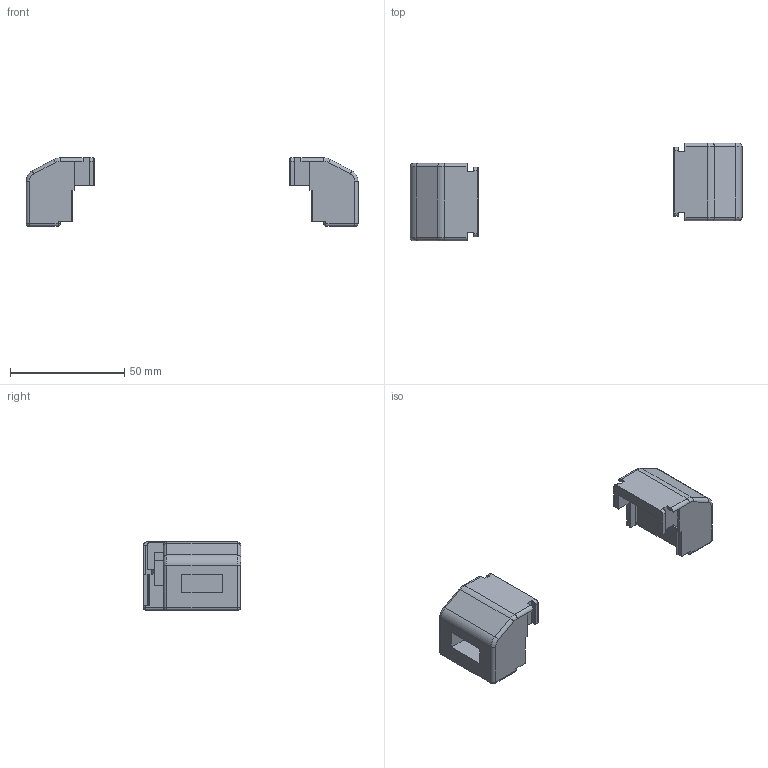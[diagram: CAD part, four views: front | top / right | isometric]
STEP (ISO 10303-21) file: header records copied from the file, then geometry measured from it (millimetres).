
FILE_DESCRIPTION((''),'2;1');
FILE_NAME('DEWI_SR-MINI_DMEC-ASSY_115','2015-12-16T',('emanuel.wild'),(''),'PRO/ENGINEER BY PARAMETRIC TECHNOLOGY CORPORATION, 2015200','PRO/ENGINEER BY PARAMETRIC TECHNOLOGY CORPORATION, 2015200','');
FILE_SCHEMA(('AUTOMOTIVE_DESIGN { 1 0 10303 214 1 1 1 1 }'));
Length unit declared in the file: millimetre
Products named in the file (2): DEWI_SR-MINI_DMEC; DEWI_SR-MINI_DMEC-ASSY_115
Assembly tree (2 placements, depth 2):
  DEWI_SR-MINI_DMEC-ASSY_115
    DEWI_SR-MINI_DMEC  x2
Bounding box: 145 x 42.6 x 29.8 mm (x, y, z)
Volume: 25339.5 mm3; surface area: 13623 mm2
Topology: 2 solids, 2 shells, 202 faces, 528 edges, 332 vertices
Faces by surface type: plane 120, cylinder 58, torus 16, bspline 4, sphere 4
Entity records: 3792 total; most frequent: CARTESIAN_POINT 570, DIRECTION 538, ORIENTED_EDGE 528, EDGE_CURVE 264, VECTOR 196, LINE 196, AXIS2_PLACEMENT_3D 171, VERTEX_POINT 166
